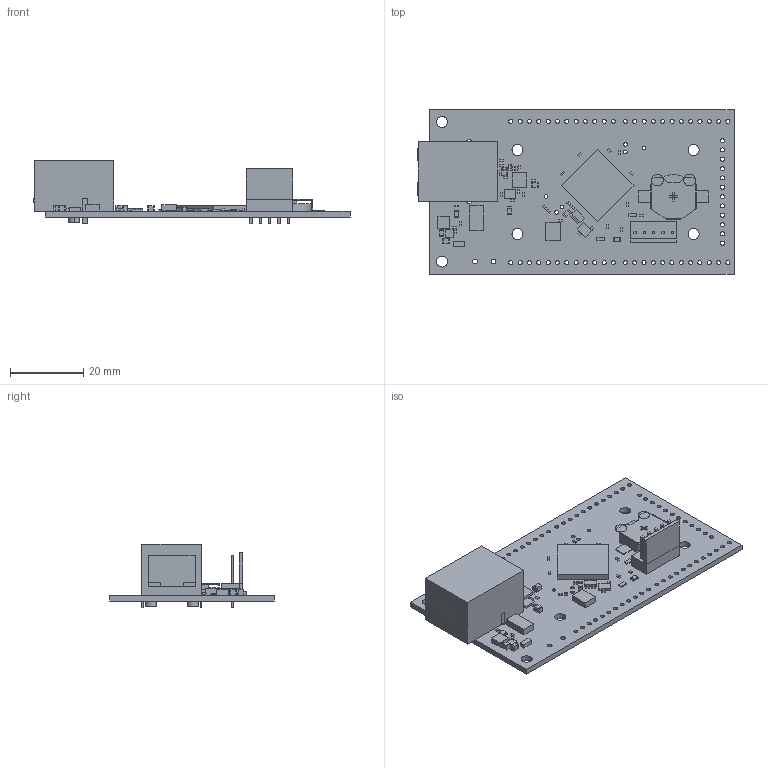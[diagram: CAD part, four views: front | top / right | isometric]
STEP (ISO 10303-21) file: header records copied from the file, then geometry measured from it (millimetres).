
FILE_DESCRIPTION((''),'2;1');
FILE_NAME('POKEYS57E_V1-2_ASM','2017-10-05T',('Beebrox'),(''),'CREO PARAMETRIC BY PTC INC, 2015380','CREO PARAMETRIC BY PTC INC, 2015380','');
FILE_SCHEMA(('CONFIG_CONTROL_DESIGN'));
Length unit declared in the file: millimetre
Products named in the file (178): BOARD; EXTRUDED-9412; 603079856_ASM; EXTRUDED-9789; 603079728_ASM; R99_ASM; R46_ASM; R41_ASM; R39_ASM; R36_ASM; EXTRUDED-10376; 603083568_ASM; EXTRUDED-10753; 603083696_ASM; L3_ASM; EXTRUDED-11156; 750605168_ASM; EXTRUDED-11528; 603082160_ASM; C56_ASM; EXTRUDED-11936; 603079472_ASM; EXTRUDED-12308; 603079344_ASM; C55_ASM; EXTRUDED-12721; 603079216_ASM; C54_ASM; C53_ASM; C52_ASM; C51_ASM; C12_ASM; EXTRUDED-13305; 603084208_ASM; T1_ASM; EXTRUDED-13708; 603079600_ASM; R4_ASM; R2_ASM; EXTRUDED-14159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
Assembly tree (287 placements, depth 5):
  POKEYS57E_V1-2_ASM
    PCB_ASM
      BOARD
      R99_ASM
        603079856_ASM  x2
          EXTRUDED-9412
        603079728_ASM
          EXTRUDED-9789
      R46_ASM
        603079856_ASM  x2
          EXTRUDED-9412
        603079728_ASM
          EXTRUDED-9789
      R41_ASM
        603079856_ASM  x2
          EXTRUDED-9412
        603079728_ASM
          EXTRUDED-9789
      R39_ASM
        603079856_ASM  x2
          EXTRUDED-9412
        603079728_ASM
          EXTRUDED-9789
      R36_ASM
        603079856_ASM  x2
          EXTRUDED-9412
        603079728_ASM
          EXTRUDED-9789
      L3_ASM
        603083568_ASM  x2
          EXTRUDED-10376
        603083696_ASM
          EXTRUDED-10753
      C56_ASM
        750605168_ASM
          EXTRUDED-11156
        603082160_ASM  x2
          EXTRUDED-11528
      C55_ASM
        603079472_ASM
          EXTRUDED-11936
        603079344_ASM  x2
          EXTRUDED-12308
      C54_ASM
        603079472_ASM
          EXTRUDED-11936
        603079216_ASM  x2
          EXTRUDED-12721
      C53_ASM
        603079472_ASM
          EXTRUDED-11936
        603079344_ASM  x2
          EXTRUDED-12308
      C52_ASM
        603079472_ASM
          EXTRUDED-11936
        603079216_ASM  x2
          EXTRUDED-12721
      C51_ASM
        603079472_ASM
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Bounding box: 86.09 x 44.9 x 17.24 mm (x, y, z)
Volume: 11786 mm3; surface area: 12955.9 mm2
Topology: 166 solids, 166 shells, 1188 faces, 2568 edges, 1712 vertices
Faces by surface type: plane 988, cylinder 200
Entity records: 21635 total; most frequent: DIRECTION 4212, CARTESIAN_POINT 3371, ORIENTED_EDGE 2508, AXIS2_PLACEMENT_3D 1677, EDGE_CURVE 1254, VECTOR 858, LINE 858, VERTEX_POINT 836
